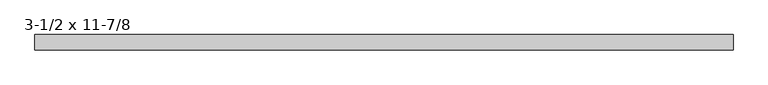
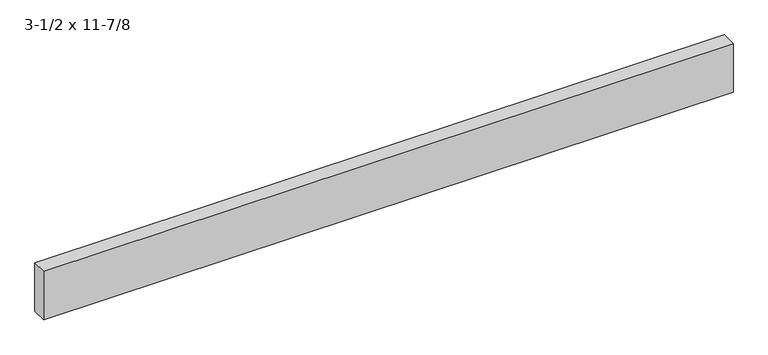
"""IFC4 building model written with IfcOpenShell, lengths in millimetres: beam geometry, Trus Joist - Parallam PSL - Beam Header : 3-1/2 x 11-7/8."""

from ifc_helpers import new_model, si_unit, frame, origin, place, context, project, spatial, polyline, outline, extrude, source, transform, mapped, element, save


def beam_3_1_2_x_11_7_8_324d6977(model_context):
    return source(origin(), model_context, "Body", "SweptSolid", [
        extrude(outline(polyline([(2035.175, 44.45), (2035.175, -44.45), (-2016.125, -44.45), (-2016.125, 44.45), (2035.175, 44.45)])), frame((0.0, 0.0, -150.8125), z_axis=(0.0, 0.0, 1.0), x_axis=(1.0, 0.0, 0.0)), (0.0, 0.0, 1.0), 301.625),
    ])


if __name__ == "__main__":
    model = new_model("IFC4")
    model_context = context("Model", 3, world=origin())
    ifc_project = project(units=[si_unit("LENGTHUNIT", "METRE", prefix="MILLI")], contexts=[model_context])
    site = spatial("IfcSite", under=ifc_project)
    building = spatial("IfcBuilding", under=site)
    placement = place(None, origin())
    beam_3_1_2_x_11_7_8_shape = beam_3_1_2_x_11_7_8_324d6977(model_context)
    element("IfcBeam", 1, ObjectType="Trus Joist - Parallam PSL - Beam Header : 3-1/2 x 11-7/8", at=placement, inside=building, context=model_context, shape_type="MappedRepresentation", body=[
        mapped(beam_3_1_2_x_11_7_8_shape, transform((0.0, 0.0, 0.0), x_axis=(1.0, 0.0, 0.0), y_axis=(0.0, 1.0, 0.0), z_axis=(0.0, 0.0, 1.0))),
    ])
    save(model, "model.ifc")
